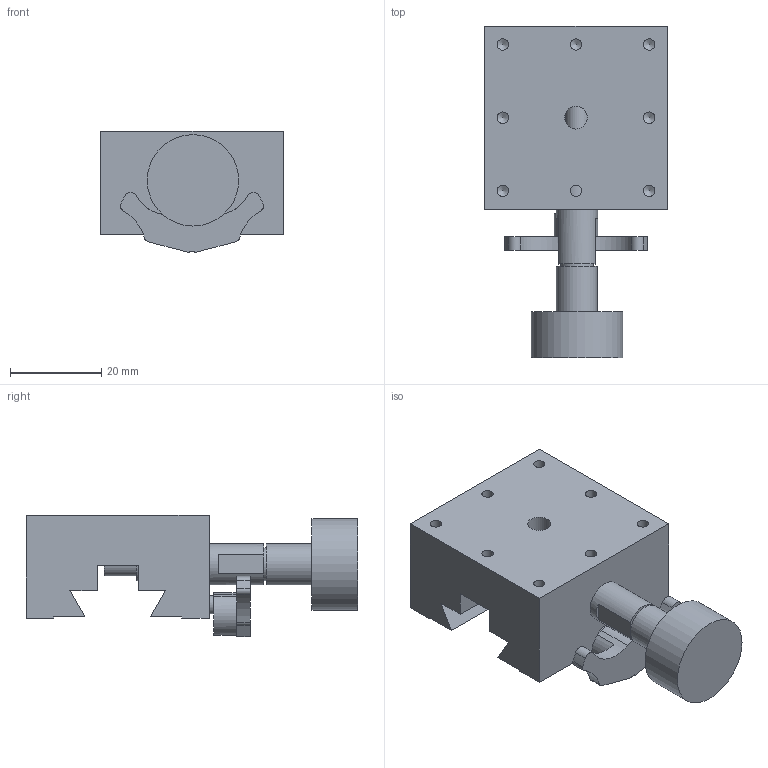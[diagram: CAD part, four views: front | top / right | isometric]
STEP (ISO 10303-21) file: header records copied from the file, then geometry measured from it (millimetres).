
FILE_DESCRIPTION( ( 'STEP AP203' ), '1' );
FILE_NAME( 'C:/3D-Trans/3D_BDLR-40+080811.step', '2008-08-11T04:35:08', ( ' ' ), ( ' ' ), 'XStep 1.0', ' ', ' ' );
FILE_SCHEMA( ( 'CONFIG_CONTROL_DESIGN' ) );
Length unit declared in the file: millimetre
Products named in the file (2): 1; 2
Bounding box: 40 x 72.5 x 26.47 mm (x, y, z)
Volume: 34630.4 mm3; surface area: 11991.5 mm2
Topology: 2 solids, 2 shells, 96 faces, 244 edges, 160 vertices
Faces by surface type: cylinder 47, plane 41, cone 8
Full cylindrical faces by diameter (mm): 2.5 x16, 4 x1, 4.5 x2, 4.7 x1, 5 x2, 7.2 x2, 8.2 x1, 9 x2, 20 x1
Entity records: 2768 total; most frequent: CARTESIAN_POINT 543, DIRECTION 464, ORIENTED_EDGE 372, AXIS2_PLACEMENT_3D 187, EDGE_CURVE 186, VERTEX_POINT 148, EDGE_LOOP 145, FACE_OUTER_BOUND 124
